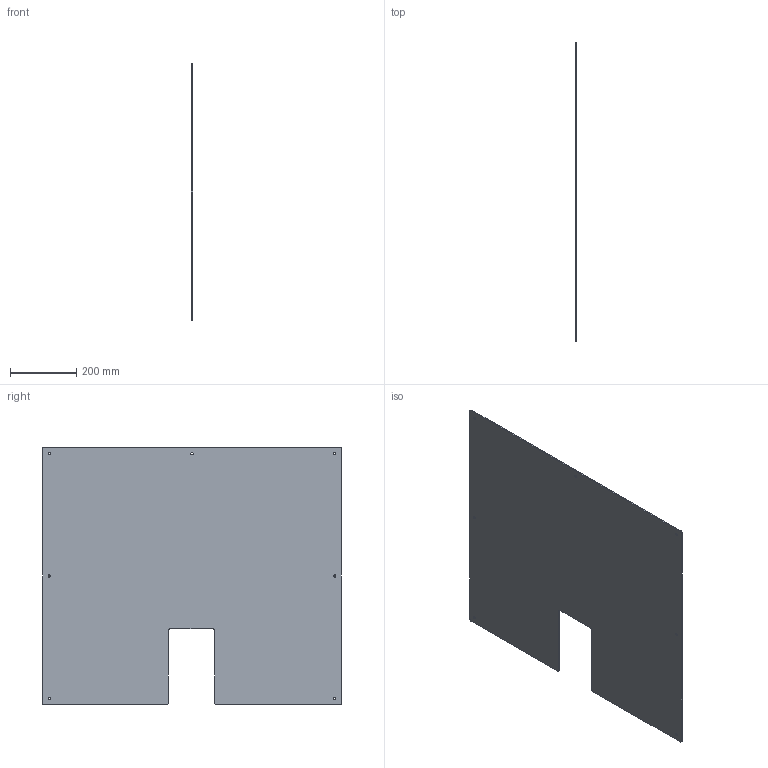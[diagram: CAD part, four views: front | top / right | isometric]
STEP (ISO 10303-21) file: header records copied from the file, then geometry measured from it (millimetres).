
FILE_DESCRIPTION(/* description */ (''),/* implementation_level */ '2;1');
FILE_NAME(/* name */ 'Top Enclosure Back Panel.step',/* time_stamp */ '2026-05-15T12:32:28-07:00',/* author */ (''),/* organization */ (''),/* preprocessor_version */ 'ST-DEVELOPER v20.1',/* originating_system */ 'Autodesk Translation Framework v15.8.0.0',/* authorisation */ '');
FILE_SCHEMA (('AUTOMOTIVE_DESIGN { 1 0 10303 214 3 1 1 }'));
Length unit declared in the file: millimetre
Products named in the file (1): Top Enclosure Back Panel
Bounding box: 3.67 x 904 x 780 mm (x, y, z)
Volume: 2467704.9 mm3; surface area: 1359349 mm2
Topology: 1 solids, 1 shells, 25 faces, 69 edges, 46 vertices
Faces by surface type: cylinder 15, plane 10
Full cylindrical faces by diameter (mm): 7 x7
Entity records: 874 total; most frequent: DIRECTION 151, CARTESIAN_POINT 141, ORIENTED_EDGE 138, EDGE_CURVE 69, AXIS2_PLACEMENT_3D 56, VERTEX_POINT 46, EDGE_LOOP 39, LINE 39
